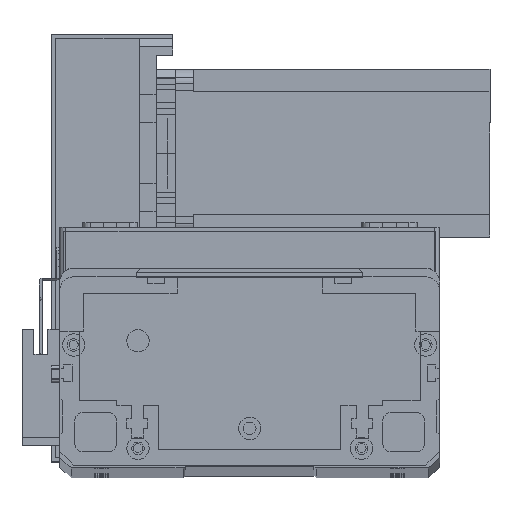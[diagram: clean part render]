
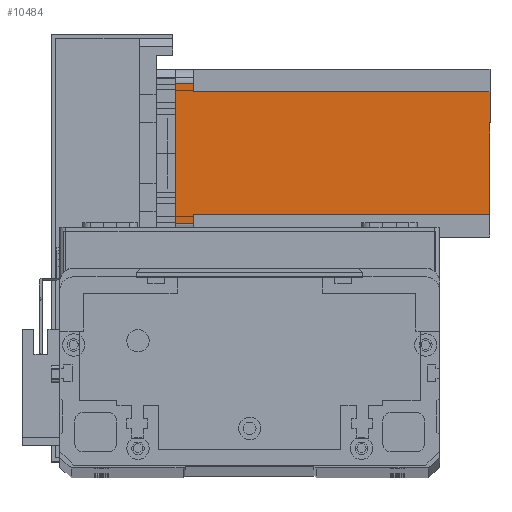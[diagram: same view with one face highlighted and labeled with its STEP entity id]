
A CAD part, top view. The second image highlights one B-rep face of the part: STEP entity #10484.
In plain terms, the highlighted planar face has unit normal (0, 0, 1) as drawn and (0, -1, 0) by its records, which use the part's own axes.
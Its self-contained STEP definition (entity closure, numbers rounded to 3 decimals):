
#155 = LINE ( 'NONE', #21542, #24305 ) ;
#523 = EDGE_CURVE ( 'NONE', #22114, #27747, #14424, .T. ) ;
#1009 = DIRECTION ( 'NONE',  ( 0., 0., -1. ) ) ;
#1682 = VERTEX_POINT ( 'NONE', #14965 ) ;
#2211 = DIRECTION ( 'NONE',  ( 1., 0., 0. ) ) ;
#2626 = CARTESIAN_POINT ( 'NONE',  ( 0., 0., 0. ) ) ;
#2874 = LINE ( 'NONE', #6298, #17571 ) ;
#3325 = CARTESIAN_POINT ( 'NONE',  ( 55., 0., -6.5 ) ) ;
#3905 = ORIENTED_EDGE ( 'NONE', *, *, #29618, .F. ) ;
#4668 = CARTESIAN_POINT ( 'NONE',  ( 8., 0., -112.5 ) ) ;
#4683 = DIRECTION ( 'NONE',  ( 0., 0., -1. ) ) ;
#4756 = ORIENTED_EDGE ( 'NONE', *, *, #12516, .T. ) ;
#5884 = EDGE_LOOP ( 'NONE', ( #27096, #25803, #6496, #4756, #3905, #8626, #21344, #20660 ) ) ;
#5956 = CARTESIAN_POINT ( 'NONE',  ( 52., 0., -6.5 ) ) ;
#6153 = CARTESIAN_POINT ( 'NONE',  ( 52., 0., -112.5 ) ) ;
#6298 = CARTESIAN_POINT ( 'NONE',  ( 52., 0., -6.5 ) ) ;
#6496 = ORIENTED_EDGE ( 'NONE', *, *, #11092, .F. ) ;
#7639 = CARTESIAN_POINT ( 'NONE',  ( 5., 0., 0. ) ) ;
#8223 = VECTOR ( 'NONE', #4683, 1000. ) ;
#8626 = ORIENTED_EDGE ( 'NONE', *, *, #10057, .F. ) ;
#9146 = CARTESIAN_POINT ( 'NONE',  ( 0., 0., -112.5 ) ) ;
#9397 = CARTESIAN_POINT ( 'NONE',  ( 0., 0., -112.5 ) ) ;
#9744 = VERTEX_POINT ( 'NONE', #3325 ) ;
#9755 = LINE ( 'NONE', #21850, #15923 ) ;
#10012 = AXIS2_PLACEMENT_3D ( 'NONE', #9146, #11468, #27636 ) ;
#10057 = EDGE_CURVE ( 'NONE', #21551, #18209, #29498, .T. ) ;
#10328 = CARTESIAN_POINT ( 'NONE',  ( 52., 0., -112.5 ) ) ;
#10484 = ADVANCED_FACE ( 'NONE', ( #22606 ), #23019, .T. ) ;
#11092 = EDGE_CURVE ( 'NONE', #15973, #1682, #14249, .T. ) ;
#11468 = DIRECTION ( 'NONE',  ( 0., -1., 0. ) ) ;
#12367 = DIRECTION ( 'NONE',  ( 0., 0., 1. ) ) ;
#12516 = EDGE_CURVE ( 'NONE', #15973, #16382, #21011, .T. ) ;
#14249 = LINE ( 'NONE', #2626, #25805 ) ;
#14424 = LINE ( 'NONE', #10328, #8223 ) ;
#14965 = CARTESIAN_POINT ( 'NONE',  ( 55., 0., 0. ) ) ;
#15099 = CARTESIAN_POINT ( 'NONE',  ( 5., 0., -112.5 ) ) ;
#15923 = VECTOR ( 'NONE', #26377, 1000. ) ;
#15973 = VERTEX_POINT ( 'NONE', #7639 ) ;
#15977 = EDGE_CURVE ( 'NONE', #9744, #1682, #155, .T. ) ;
#16105 = VECTOR ( 'NONE', #2211, 1000. ) ;
#16382 = VERTEX_POINT ( 'NONE', #30024 ) ;
#17571 = VECTOR ( 'NONE', #22602, 1000. ) ;
#18209 = VERTEX_POINT ( 'NONE', #26947 ) ;
#18988 = DIRECTION ( 'NONE',  ( 1., 0., 0. ) ) ;
#20275 = EDGE_CURVE ( 'NONE', #22114, #9744, #2874, .T. ) ;
#20660 = ORIENTED_EDGE ( 'NONE', *, *, #523, .F. ) ;
#20985 = DIRECTION ( 'NONE',  ( 0., 0., 1. ) ) ;
#21011 = LINE ( 'NONE', #15099, #26417 ) ;
#21344 = ORIENTED_EDGE ( 'NONE', *, *, #25246, .T. ) ;
#21542 = CARTESIAN_POINT ( 'NONE',  ( 55., 0., -112.5 ) ) ;
#21551 = VERTEX_POINT ( 'NONE', #22537 ) ;
#21850 = CARTESIAN_POINT ( 'NONE',  ( 8., 0., -6.5 ) ) ;
#22114 = VERTEX_POINT ( 'NONE', #5956 ) ;
#22537 = CARTESIAN_POINT ( 'NONE',  ( 8., 0., -112.5 ) ) ;
#22602 = DIRECTION ( 'NONE',  ( 1., 0., 0. ) ) ;
#22606 = FACE_OUTER_BOUND ( 'NONE', #5884, .T. ) ;
#22633 = VECTOR ( 'NONE', #20985, 1000. ) ;
#22992 = LINE ( 'NONE', #9397, #16105 ) ;
#23019 = PLANE ( 'NONE',  #10012 ) ;
#24305 = VECTOR ( 'NONE', #12367, 1000. ) ;
#25246 = EDGE_CURVE ( 'NONE', #21551, #27747, #22992, .T. ) ;
#25803 = ORIENTED_EDGE ( 'NONE', *, *, #15977, .T. ) ;
#25805 = VECTOR ( 'NONE', #18988, 1000. ) ;
#26377 = DIRECTION ( 'NONE',  ( -1., 0., 0. ) ) ;
#26417 = VECTOR ( 'NONE', #1009, 1000. ) ;
#26947 = CARTESIAN_POINT ( 'NONE',  ( 8., 0., -6.5 ) ) ;
#27096 = ORIENTED_EDGE ( 'NONE', *, *, #20275, .T. ) ;
#27636 = DIRECTION ( 'NONE',  ( 0., 0., -1. ) ) ;
#27747 = VERTEX_POINT ( 'NONE', #6153 ) ;
#29498 = LINE ( 'NONE', #4668, #22633 ) ;
#29618 = EDGE_CURVE ( 'NONE', #18209, #16382, #9755, .T. ) ;
#30024 = CARTESIAN_POINT ( 'NONE',  ( 5., 0., -6.5 ) ) ;
